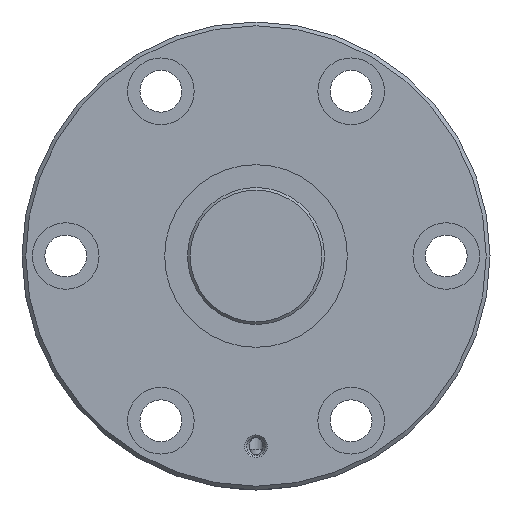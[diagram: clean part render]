
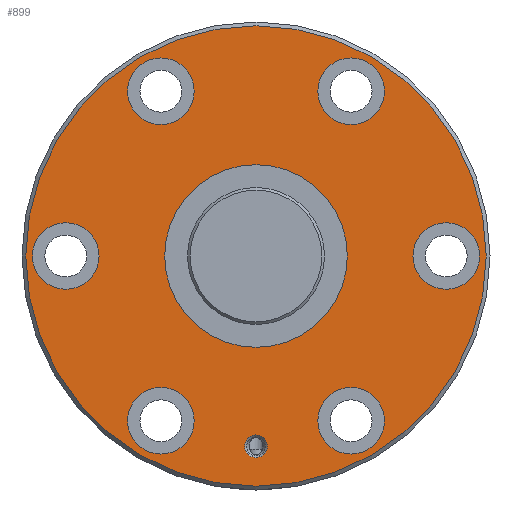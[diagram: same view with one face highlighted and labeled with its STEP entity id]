
A CAD part, left-side view. The second image highlights one B-rep face of the part: STEP entity #899.
In plain terms, the highlighted planar face has unit normal (-1, 0, 0).
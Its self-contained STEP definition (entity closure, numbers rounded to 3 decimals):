
#147=ORIENTED_EDGE('',*,*,#340,.T.);
#148=ORIENTED_EDGE('',*,*,#341,.T.);
#149=ORIENTED_EDGE('',*,*,#342,.T.);
#150=ORIENTED_EDGE('',*,*,#343,.T.);
#151=ORIENTED_EDGE('',*,*,#344,.T.);
#152=ORIENTED_EDGE('',*,*,#345,.T.);
#153=ORIENTED_EDGE('',*,*,#346,.T.);
#154=ORIENTED_EDGE('',*,*,#347,.T.);
#155=ORIENTED_EDGE('',*,*,#339,.F.);
#339=EDGE_CURVE('',#439,#439,#522,.T.);
#340=EDGE_CURVE('',#440,#440,#523,.T.);
#341=EDGE_CURVE('',#441,#441,#524,.F.);
#342=EDGE_CURVE('',#442,#442,#525,.T.);
#343=EDGE_CURVE('',#443,#443,#526,.T.);
#344=EDGE_CURVE('',#444,#444,#527,.T.);
#345=EDGE_CURVE('',#445,#445,#528,.T.);
#346=EDGE_CURVE('',#446,#446,#529,.T.);
#347=EDGE_CURVE('',#447,#447,#530,.T.);
#439=VERTEX_POINT('',#1508);
#440=VERTEX_POINT('',#1511);
#441=VERTEX_POINT('',#1513);
#442=VERTEX_POINT('',#1515);
#443=VERTEX_POINT('',#1517);
#444=VERTEX_POINT('',#1519);
#445=VERTEX_POINT('',#1521);
#446=VERTEX_POINT('',#1523);
#447=VERTEX_POINT('',#1525);
#522=CIRCLE('',#1005,60.5);
#523=CIRCLE('',#1007,24.);
#524=CIRCLE('',#1008,8.75);
#525=CIRCLE('',#1009,3.);
#526=CIRCLE('',#1010,8.75);
#527=CIRCLE('',#1011,8.75);
#528=CIRCLE('',#1012,8.75);
#529=CIRCLE('',#1013,8.75);
#530=CIRCLE('',#1014,8.75);
#602=EDGE_LOOP('',(#147));
#603=EDGE_LOOP('',(#148));
#604=EDGE_LOOP('',(#149));
#605=EDGE_LOOP('',(#150));
#606=EDGE_LOOP('',(#151));
#607=EDGE_LOOP('',(#152));
#608=EDGE_LOOP('',(#153));
#609=EDGE_LOOP('',(#154));
#610=EDGE_LOOP('',(#155));
#742=FACE_BOUND('',#602,.T.);
#743=FACE_BOUND('',#603,.T.);
#744=FACE_BOUND('',#604,.T.);
#745=FACE_BOUND('',#605,.T.);
#746=FACE_BOUND('',#606,.T.);
#747=FACE_BOUND('',#607,.T.);
#748=FACE_BOUND('',#608,.T.);
#749=FACE_BOUND('',#609,.T.);
#750=FACE_BOUND('',#610,.T.);
#864=PLANE('',#1006);
#899=ADVANCED_FACE('',(#742,#743,#744,#745,#746,#747,#748,#749,#750),#864,
 .T.);
#1005=AXIS2_PLACEMENT_3D('',#1507,#1171,#1172);
#1006=AXIS2_PLACEMENT_3D('',#1509,#1173,#1174);
#1007=AXIS2_PLACEMENT_3D('',#1510,#1175,#1176);
#1008=AXIS2_PLACEMENT_3D('',#1512,#1177,#1178);
#1009=AXIS2_PLACEMENT_3D('',#1514,#1179,#1180);
#1010=AXIS2_PLACEMENT_3D('',#1516,#1181,#1182);
#1011=AXIS2_PLACEMENT_3D('',#1518,#1183,#1184);
#1012=AXIS2_PLACEMENT_3D('',#1520,#1185,#1186);
#1013=AXIS2_PLACEMENT_3D('',#1522,#1187,#1188);
#1014=AXIS2_PLACEMENT_3D('',#1524,#1189,#1190);
#1171=DIRECTION('',(1.,0.,0.));
#1172=DIRECTION('',(0.,0.,-1.));
#1173=DIRECTION('',(-1.,0.,0.));
#1174=DIRECTION('',(0.,0.,1.));
#1175=DIRECTION('',(1.,0.,0.));
#1176=DIRECTION('',(0.,0.,-1.));
#1177=DIRECTION('',(-1.,0.,0.));
#1178=DIRECTION('',(0.,0.,1.));
#1179=DIRECTION('',(1.,0.,0.));
#1180=DIRECTION('',(0.,0.,-1.));
#1181=DIRECTION('',(1.,0.,0.));
#1182=DIRECTION('',(0.,0.,-1.));
#1183=DIRECTION('',(1.,0.,0.));
#1184=DIRECTION('',(0.,0.,-1.));
#1185=DIRECTION('',(1.,0.,0.));
#1186=DIRECTION('',(0.,0.,-1.));
#1187=DIRECTION('',(1.,0.,0.));
#1188=DIRECTION('',(0.,0.,-1.));
#1189=DIRECTION('',(1.,0.,0.));
#1190=DIRECTION('',(0.,0.,-1.));
#1507=CARTESIAN_POINT('',(0.,0.,0.));
#1508=CARTESIAN_POINT('',(0.,0.,-60.5));
#1509=CARTESIAN_POINT('',(0.,60.5,0.));
#1510=CARTESIAN_POINT('',(0.,0.,0.));
#1511=CARTESIAN_POINT('',(0.,0.,-24.));
#1512=CARTESIAN_POINT('',(0.,50.,0.));
#1513=CARTESIAN_POINT('',(0.,50.,8.75));
#1514=CARTESIAN_POINT('',(0.,0.,-50.));
#1515=CARTESIAN_POINT('',(0.,0.,-53.));
#1516=CARTESIAN_POINT('',(0.,-50.,0.));
#1517=CARTESIAN_POINT('',(0.,-50.,-8.75));
#1518=CARTESIAN_POINT('',(0.,25.,43.301));
#1519=CARTESIAN_POINT('',(0.,25.,34.551));
#1520=CARTESIAN_POINT('',(0.,-25.,-43.301));
#1521=CARTESIAN_POINT('',(0.,-25.,-52.051));
#1522=CARTESIAN_POINT('',(0.,-25.,43.301));
#1523=CARTESIAN_POINT('',(0.,-25.,34.551));
#1524=CARTESIAN_POINT('',(0.,25.,-43.301));
#1525=CARTESIAN_POINT('',(0.,25.,-52.051));
